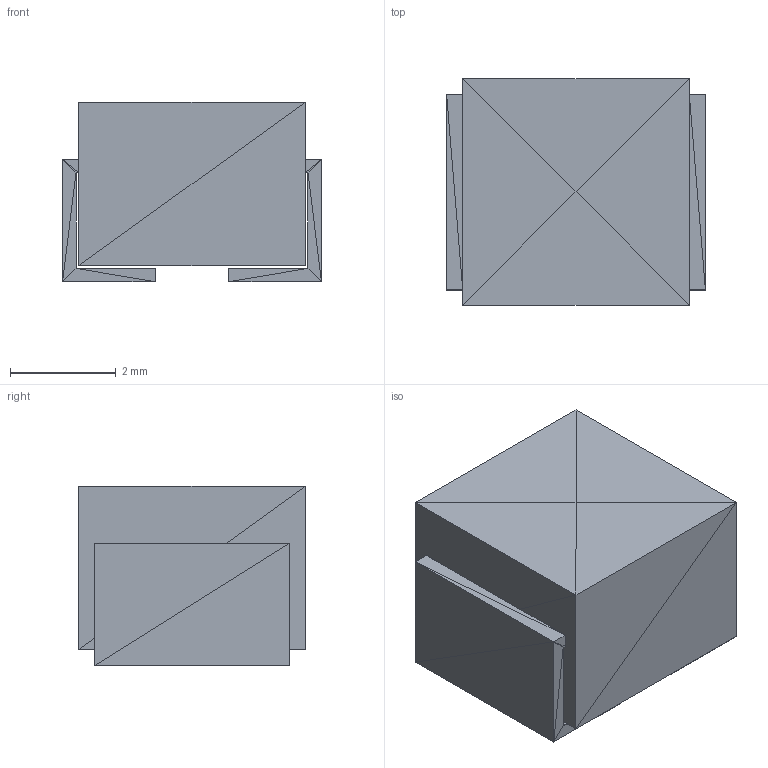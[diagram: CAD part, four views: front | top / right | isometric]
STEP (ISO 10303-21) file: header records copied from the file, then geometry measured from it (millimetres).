
FILE_DESCRIPTION(('STEP AP214'),'1');
FILE_NAME('XAL4030','2020-01-23T14:02:16',(''),(''),'','','');
FILE_SCHEMA(('AUTOMOTIVE_DESIGN'));
Length unit declared in the file: millimetre
Products named in the file (1): product
Bounding box: 4.9 x 4.29 x 3.4 mm (x, y, z)
Surface area: 155.2 mm2 (no closed solid volume)
Topology: 0 solids, 72 shells, 72 faces, 216 edges, 216 vertices
Faces by surface type: plane 72
Entity records: 2435 total; most frequent: CARTESIAN_POINT 505, DIRECTION 362, ORIENTED_EDGE 216, EDGE_CURVE 216, VERTEX_POINT 216, LINE 216, VECTOR 216, AXIS2_PLACEMENT_3D 73
